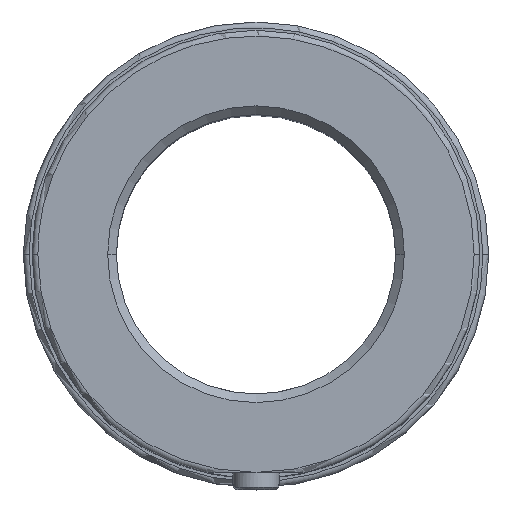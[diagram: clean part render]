
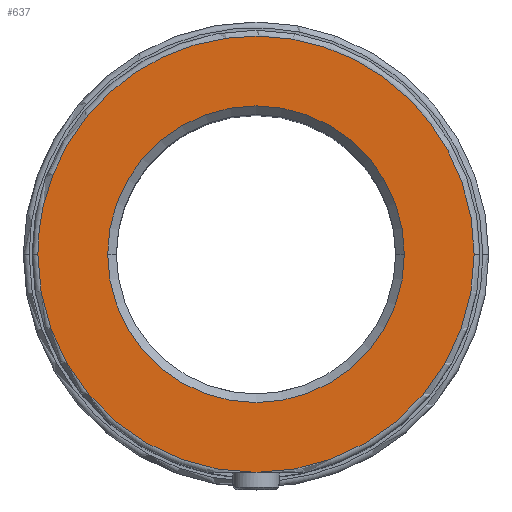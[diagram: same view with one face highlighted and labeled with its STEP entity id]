
A CAD part, top view. The second image highlights one B-rep face of the part: STEP entity #637.
In plain terms, the highlighted planar face has unit normal (0, 0, 1).
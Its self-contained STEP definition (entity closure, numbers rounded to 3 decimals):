
#279=CARTESIAN_POINT('Vertex',(0.,-37.5,50.)) ;
#401=CARTESIAN_POINT('Vertex',(-25.5,0.,50.)) ;
#404=CARTESIAN_POINT('Axis2P3D Location',(0.,0.,50.)) ;
#408=CARTESIAN_POINT('Vertex',(25.5,0.,50.)) ;
#496=CARTESIAN_POINT('Vertex',(37.5,0.,50.)) ;
#499=CARTESIAN_POINT('Axis2P3D Location',(0.,0.,50.)) ;
#520=CARTESIAN_POINT('Vertex',(-37.5,0.,50.)) ;
#523=CARTESIAN_POINT('Axis2P3D Location',(0.,0.,50.)) ;
#585=CARTESIAN_POINT('Axis2P3D Location',(0.,0.,50.)) ;
#597=CARTESIAN_POINT('Axis2P3D Location',(-25.5,0.,50.)) ;
#603=CARTESIAN_POINT('Control Point',(37.5,0.,50.)) ;
#604=CARTESIAN_POINT('Control Point',(37.5,3.6,50.)) ;
#605=CARTESIAN_POINT('Control Point',(37.068,7.2,50.)) ;
#606=CARTESIAN_POINT('Control Point',(36.204,10.731,50.)) ;
#607=CARTESIAN_POINT('Control Point',(33.645,17.516,50.)) ;
#608=CARTESIAN_POINT('Control Point',(29.554,23.504,50.)) ;
#609=CARTESIAN_POINT('Control Point',(27.157,26.236,50.)) ;
#610=CARTESIAN_POINT('Control Point',(21.755,31.074,50.)) ;
#611=CARTESIAN_POINT('Control Point',(15.361,34.495,50.)) ;
#612=CARTESIAN_POINT('Control Point',(11.973,35.812,50.)) ;
#613=CARTESIAN_POINT('Control Point',(4.947,37.608,50.)) ;
#614=CARTESIAN_POINT('Control Point',(-2.304,37.69,50.)) ;
#615=CARTESIAN_POINT('Control Point',(-5.917,37.294,50.)) ;
#616=CARTESIAN_POINT('Control Point',(-12.978,35.643,50.)) ;
#617=CARTESIAN_POINT('Control Point',(-19.448,32.367,50.)) ;
#618=CARTESIAN_POINT('Control Point',(-22.47,30.347,50.)) ;
#619=CARTESIAN_POINT('Control Point',(-27.971,25.622,50.)) ;
#620=CARTESIAN_POINT('Control Point',(-32.197,19.729,50.)) ;
#621=CARTESIAN_POINT('Control Point',(-33.945,16.541,50.)) ;
#622=CARTESIAN_POINT('Control Point',(-36.028,11.341,50.)) ;
#623=CARTESIAN_POINT('Control Point',(-37.115,5.875,50.)) ;
#624=CARTESIAN_POINT('Control Point',(-37.372,3.924,50.)) ;
#625=CARTESIAN_POINT('Control Point',(-37.5,1.962,50.)) ;
#626=CARTESIAN_POINT('Control Point',(-37.5,0.,50.)) ;
#405=DIRECTION('Axis2P3D Direction',(0.,-0.,1.)) ;
#500=DIRECTION('Axis2P3D Direction',(0.,-0.,1.)) ;
#524=DIRECTION('Axis2P3D Direction',(0.,-0.,1.)) ;
#586=DIRECTION('Axis2P3D Direction',(0.,-0.,1.)) ;
#598=DIRECTION('Axis2P3D Direction',(0.,0.,-1.)) ;
#599=DIRECTION('Axis2P3D XDirection',(-1.,0.,0.)) ;
#406=AXIS2_PLACEMENT_3D('Circle Axis2P3D',#404,#405,$) ;
#501=AXIS2_PLACEMENT_3D('Circle Axis2P3D',#499,#500,$) ;
#525=AXIS2_PLACEMENT_3D('Circle Axis2P3D',#523,#524,$) ;
#587=AXIS2_PLACEMENT_3D('Circle Axis2P3D',#585,#586,$) ;
#600=AXIS2_PLACEMENT_3D('Plane Axis2P3D',#597,#598,#599) ;
#629=ORIENTED_EDGE('',*,*,#503,.T.) ;
#630=ORIENTED_EDGE('',*,*,#627,.T.) ;
#631=ORIENTED_EDGE('',*,*,#527,.T.) ;
#634=ORIENTED_EDGE('',*,*,#589,.F.) ;
#635=ORIENTED_EDGE('',*,*,#410,.F.) ;
#636=FACE_BOUND('',#633,.T.) ;
#637=ADVANCED_FACE('744-48 sol1',(#632,#636),#601,.F.) ;
#602=B_SPLINE_CURVE_WITH_KNOTS('',5,(#603,#604,#605,#606,#607,#608,#609,#610,#611,#612,#613,#614,#615,#616,#617,#618,#619,#620,#621,#622,#623,#624,#625,#626),.UNSPECIFIED.,.F.,.U.,(6,3,3,3,3,3,3,6),(0.,25.456,50.911,76.367,101.822,127.278,152.734,166.607),.UNSPECIFIED.) ;
#407=CIRCLE('generated circle',#406,25.5) ;
#502=CIRCLE('generated circle',#501,37.5) ;
#526=CIRCLE('generated circle',#525,37.5) ;
#588=CIRCLE('generated circle',#587,25.5) ;
#410=EDGE_CURVE('',#402,#409,#407,.T.) ;
#503=EDGE_CURVE('',#280,#497,#502,.T.) ;
#527=EDGE_CURVE('',#521,#280,#526,.T.) ;
#589=EDGE_CURVE('',#409,#402,#588,.T.) ;
#627=EDGE_CURVE('',#497,#521,#602,.T.) ;
#628=EDGE_LOOP('',(#629,#630,#631)) ;
#633=EDGE_LOOP('',(#634,#635)) ;
#632=FACE_OUTER_BOUND('',#628,.T.) ;
#601=PLANE('Plane',#600) ;
#280=VERTEX_POINT('',#279) ;
#402=VERTEX_POINT('',#401) ;
#409=VERTEX_POINT('',#408) ;
#497=VERTEX_POINT('',#496) ;
#521=VERTEX_POINT('',#520) ;
